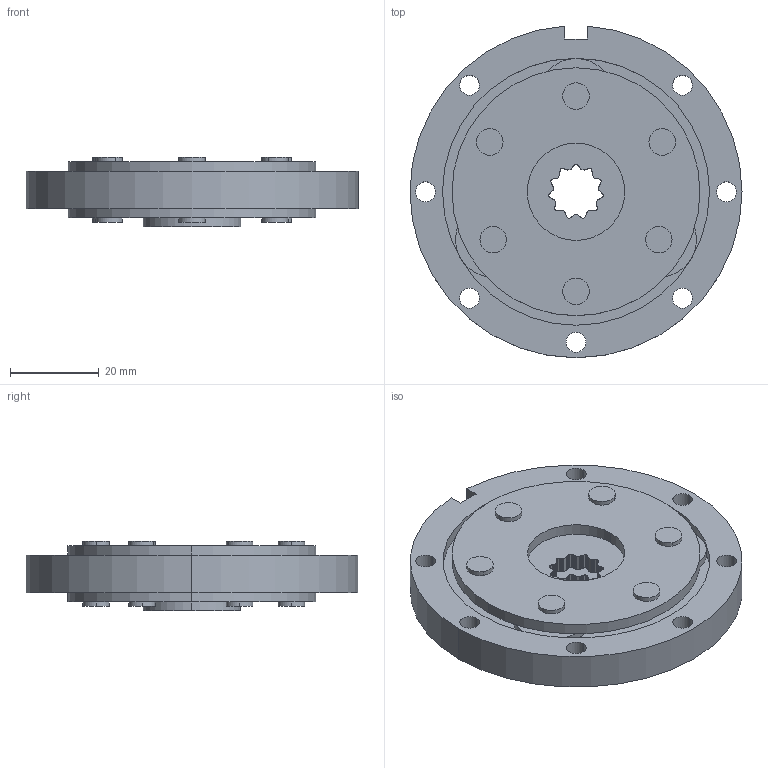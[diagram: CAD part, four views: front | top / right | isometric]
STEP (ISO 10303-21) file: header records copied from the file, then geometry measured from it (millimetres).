
FILE_DESCRIPTION (( 'STEP AP203' ), '1' );
FILE_NAME ('LGU75-3MDD.step', '2021-07-23T02:27:00', ( '' ), ( '' ), 'SwSTEP 2.0', 'SolidWorks 2021', '' );
FILE_SCHEMA (( 'CONFIG_CONTROL_DESIGN' ));
Length unit declared in the file: millimetre
Products named in the file (1): LGU75-3MDD
Bounding box: 75 x 74.92 x 15.7 mm (x, y, z)
Volume: 36451.7 mm3; surface area: 23061 mm2
Topology: 1 solids, 1 shells, 419 faces, 1176 edges, 784 vertices
Faces by surface type: cylinder 389, plane 30
Entity records: 14121 total; most frequent: DIRECTION 2794, CARTESIAN_POINT 2380, ORIENTED_EDGE 2352, AXIS2_PLACEMENT_3D 1198, EDGE_CURVE 1176, VERTEX_POINT 784, CIRCLE 778, EDGE_LOOP 472
